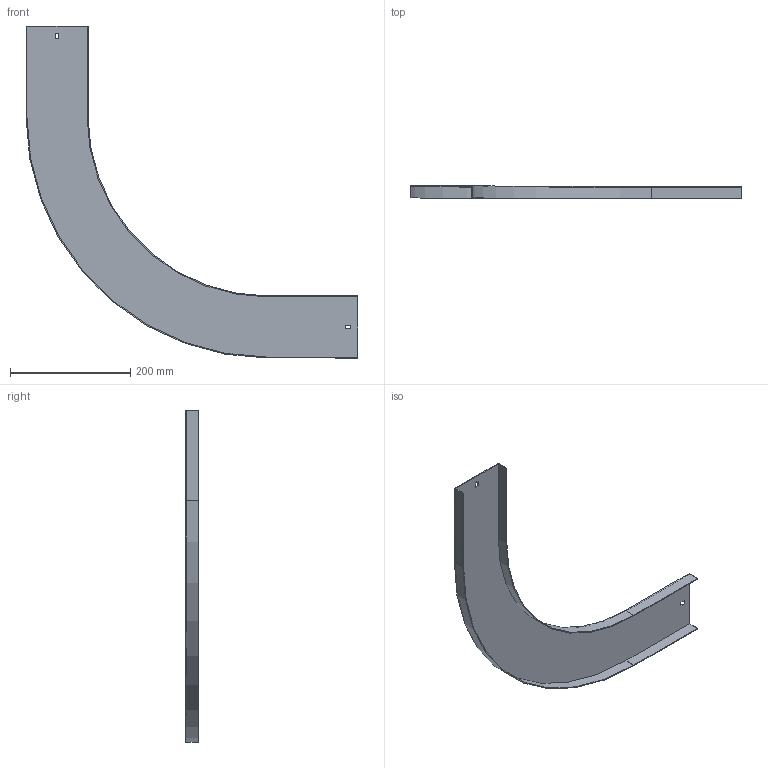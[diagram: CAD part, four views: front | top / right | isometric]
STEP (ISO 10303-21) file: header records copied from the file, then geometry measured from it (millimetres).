
FILE_DESCRIPTION (( 'STEP AP214' ), '1' );
FILE_NAME ('A2_10N3R100.step', '2025-02-21T10:53:40', ( '' ), ( '' ), 'SwSTEP 2.0', 'SolidWorks 2023', '' );
FILE_SCHEMA (( 'AUTOMOTIVE_DESIGN' ));
Length unit declared in the file: millimetre
Products named in the file (1): A2_10N3R100
Bounding box: 551.5 x 20 x 551.5 mm (x, y, z)
Volume: 178278 mm3; surface area: 240766.4 mm2
Topology: 1 solids, 1 shells, 26 faces, 72 edges, 48 vertices
Faces by surface type: plane 22, cylinder 4
Entity records: 855 total; most frequent: CARTESIAN_POINT 147, ORIENTED_EDGE 144, DIRECTION 134, EDGE_CURVE 72, LINE 64, VECTOR 64, VERTEX_POINT 48, AXIS2_PLACEMENT_3D 35
